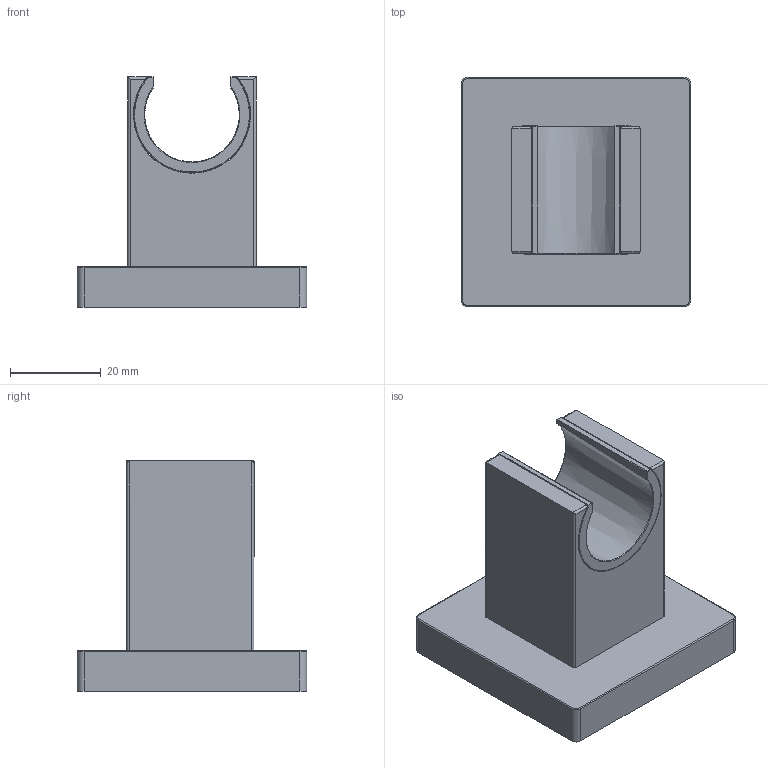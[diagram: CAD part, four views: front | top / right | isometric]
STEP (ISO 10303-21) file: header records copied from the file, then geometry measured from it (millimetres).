
FILE_DESCRIPTION(/* description */ (''),/* implementation_level */ '2;1');
FILE_NAME(/* name */ 'c:\worker\convert-fusion-mar-2019\tmp\job-1\17\output\files\24847f1d-7ff1-480e-8d7d-9baf6aad116d\ff4ba012-7e71-4b51-a0d9-78082f36cdc3.stp',/* time_stamp */ '2019-03-19T06:59:05+00:00',/* author */ (''),/* organization */ (''),/* preprocessor_version */ 'ST-DEVELOPER v17.2',/* originating_system */ 'Autodesk Translation Framework v7.6.0.251',/* authorisation */ '');
FILE_SCHEMA (('AUTOMOTIVE_DESIGN { 1 0 10303 214 3 1 1 }'));
Length unit declared in the file: millimetre
Products named in the file (1): !8876A
Bounding box: 50.5 x 50.5 x 50.65 mm (x, y, z)
Volume: 45905.7 mm3; surface area: 15030.9 mm2
Topology: 2 solids, 2 shells, 65 faces, 145 edges, 80 vertices
Faces by surface type: cylinder 29, plane 18, bspline 7, sphere 6, torus 4, cone 1
Entity records: 5627 total; most frequent: CARTESIAN_POINT 4240, ORIENTED_EDGE 280, DIRECTION 280, EDGE_CURVE 140, AXIS2_PLACEMENT_3D 106, VERTEX_POINT 80, LINE 68, VECTOR 68
